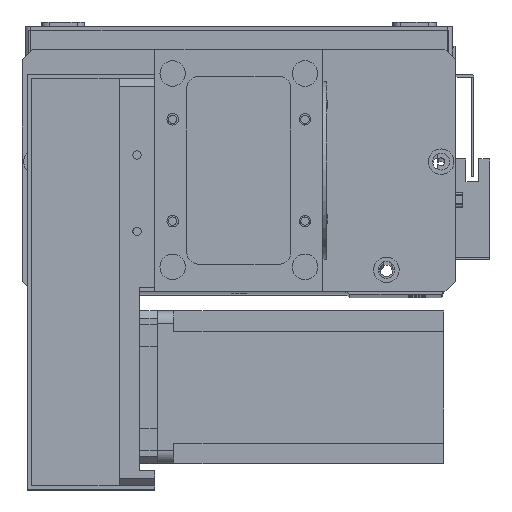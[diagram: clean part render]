
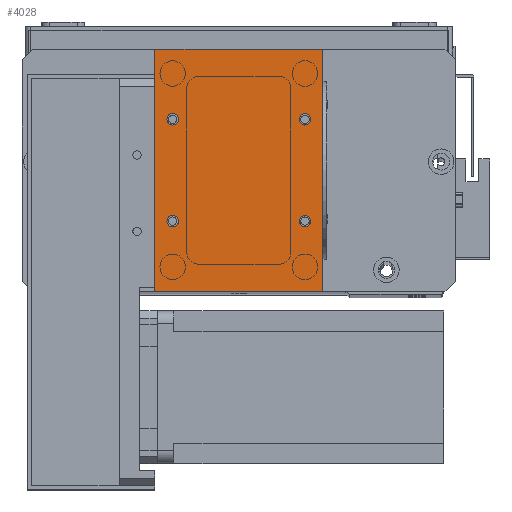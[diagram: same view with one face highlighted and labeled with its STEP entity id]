
A CAD part, top view. The second image highlights one B-rep face of the part: STEP entity #4028.
In plain terms, the highlighted planar face has unit normal (0, 0, 1).
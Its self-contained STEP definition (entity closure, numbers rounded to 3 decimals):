
#66 = CARTESIAN_POINT ( 'NONE',  ( 9.25, 27.5, 2. ) ) ;
#109 = DIRECTION ( 'NONE',  ( 0., -1., 0. ) ) ;
#522 = ORIENTED_EDGE ( 'NONE', *, *, #30972, .F. ) ;
#525 = CARTESIAN_POINT ( 'NONE',  ( 66., 0., 2. ) ) ;
#570 = VERTEX_POINT ( 'NONE', #4029 ) ;
#637 = VERTEX_POINT ( 'NONE', #14128 ) ;
#964 = CARTESIAN_POINT ( 'NONE',  ( 0., 0., 2. ) ) ;
#1369 = VERTEX_POINT ( 'NONE', #5183 ) ;
#1561 = CIRCLE ( 'NONE', #4852, 2.25 ) ;
#2448 = CARTESIAN_POINT ( 'NONE',  ( 7., 67.5, 2. ) ) ;
#2618 = ORIENTED_EDGE ( 'NONE', *, *, #27591, .F. ) ;
#3159 = ORIENTED_EDGE ( 'NONE', *, *, #25339, .T. ) ;
#3218 = FACE_BOUND ( 'NONE', #16090, .T. ) ;
#3824 = ORIENTED_EDGE ( 'NONE', *, *, #10182, .F. ) ;
#4028 = ADVANCED_FACE ( 'NONE', ( #16968, #22657, #9684, #3218, #28338 ), #6432, .F. ) ;
#4029 = CARTESIAN_POINT ( 'NONE',  ( 66., 95., 2. ) ) ;
#4418 = CIRCLE ( 'NONE', #20036, 2.25 ) ;
#4852 = AXIS2_PLACEMENT_3D ( 'NONE', #13725, #14544, #31527 ) ;
#4877 = DIRECTION ( 'NONE',  ( 1., 0., 0. ) ) ;
#5023 = VERTEX_POINT ( 'NONE', #10564 ) ;
#5183 = CARTESIAN_POINT ( 'NONE',  ( 61.25, 27.5, 2. ) ) ;
#5268 = EDGE_CURVE ( 'NONE', #29697, #637, #10010, .T. ) ;
#5712 = DIRECTION ( 'NONE',  ( 0., 0., 1. ) ) ;
#6432 = PLANE ( 'NONE',  #10910 ) ;
#6631 = CARTESIAN_POINT ( 'NONE',  ( 7., 67.5, 2. ) ) ;
#6652 = EDGE_CURVE ( 'NONE', #5023, #1369, #1561, .T. ) ;
#6762 = VERTEX_POINT ( 'NONE', #29828 ) ;
#7927 = CIRCLE ( 'NONE', #20461, 2.25 ) ;
#8896 = DIRECTION ( 'NONE',  ( 0., 0., 1. ) ) ;
#9057 = DIRECTION ( 'NONE',  ( 1., 0., 0. ) ) ;
#9684 = FACE_BOUND ( 'NONE', #19916, .T. ) ;
#9758 = CARTESIAN_POINT ( 'NONE',  ( 0., 0., 2. ) ) ;
#10010 = LINE ( 'NONE', #9758, #28651 ) ;
#10182 = EDGE_CURVE ( 'NONE', #28941, #25721, #7927, .T. ) ;
#10564 = CARTESIAN_POINT ( 'NONE',  ( 56.75, 27.5, 2. ) ) ;
#10598 = EDGE_CURVE ( 'NONE', #17504, #6762, #19010, .T. ) ;
#10689 = CARTESIAN_POINT ( 'NONE',  ( 0., 95., 2. ) ) ;
#10751 = VERTEX_POINT ( 'NONE', #23375 ) ;
#10910 = AXIS2_PLACEMENT_3D ( 'NONE', #28352, #13800, #30796 ) ;
#11043 = AXIS2_PLACEMENT_3D ( 'NONE', #20343, #5712, #22760 ) ;
#11084 = VERTEX_POINT ( 'NONE', #525 ) ;
#11468 = DIRECTION ( 'NONE',  ( 0., 0., 1. ) ) ;
#11539 = DIRECTION ( 'NONE',  ( 0., 0., 1. ) ) ;
#12057 = VECTOR ( 'NONE', #31202, 1000. ) ;
#12180 = LINE ( 'NONE', #27216, #30826 ) ;
#12429 = CARTESIAN_POINT ( 'NONE',  ( 4.75, 27.5, 2. ) ) ;
#12637 = EDGE_LOOP ( 'NONE', ( #21343, #25572 ) ) ;
#13505 = CARTESIAN_POINT ( 'NONE',  ( 7., 27.5, 2. ) ) ;
#13725 = CARTESIAN_POINT ( 'NONE',  ( 59., 27.5, 2. ) ) ;
#13800 = DIRECTION ( 'NONE',  ( 0., 0., -1. ) ) ;
#14128 = CARTESIAN_POINT ( 'NONE',  ( 0., 0., 2. ) ) ;
#14544 = DIRECTION ( 'NONE',  ( 0., 0., 1. ) ) ;
#15986 = DIRECTION ( 'NONE',  ( 1., 0., 0. ) ) ;
#16090 = EDGE_LOOP ( 'NONE', ( #22843, #3824 ) ) ;
#16585 = EDGE_CURVE ( 'NONE', #570, #29697, #12180, .T. ) ;
#16668 = CARTESIAN_POINT ( 'NONE',  ( 66., 0., 2. ) ) ;
#16968 = FACE_BOUND ( 'NONE', #12637, .T. ) ;
#17211 = EDGE_LOOP ( 'NONE', ( #27090, #522 ) ) ;
#17504 = VERTEX_POINT ( 'NONE', #26098 ) ;
#19010 = CIRCLE ( 'NONE', #11043, 2.25 ) ;
#19215 = EDGE_CURVE ( 'NONE', #29884, #10751, #27308, .T. ) ;
#19270 = EDGE_CURVE ( 'NONE', #11084, #570, #25029, .T. ) ;
#19335 = AXIS2_PLACEMENT_3D ( 'NONE', #23492, #8896, #25929 ) ;
#19508 = DIRECTION ( 'NONE',  ( 0., 0., 1. ) ) ;
#19916 = EDGE_LOOP ( 'NONE', ( #2618, #26855 ) ) ;
#20036 = AXIS2_PLACEMENT_3D ( 'NONE', #26108, #11539, #28559 ) ;
#20343 = CARTESIAN_POINT ( 'NONE',  ( 59., 67.5, 2. ) ) ;
#20366 = EDGE_CURVE ( 'NONE', #25721, #28941, #20415, .T. ) ;
#20415 = CIRCLE ( 'NONE', #19335, 2.25 ) ;
#20461 = AXIS2_PLACEMENT_3D ( 'NONE', #13505, #30517, #15986 ) ;
#20696 = AXIS2_PLACEMENT_3D ( 'NONE', #2448, #19508, #4877 ) ;
#20810 = VECTOR ( 'NONE', #30069, 1000. ) ;
#21122 = CARTESIAN_POINT ( 'NONE',  ( 4.75, 67.5, 2. ) ) ;
#21296 = AXIS2_PLACEMENT_3D ( 'NONE', #6631, #23657, #9057 ) ;
#21343 = ORIENTED_EDGE ( 'NONE', *, *, #28874, .F. ) ;
#22657 = FACE_BOUND ( 'NONE', #17211, .T. ) ;
#22760 = DIRECTION ( 'NONE',  ( 1., 0., 0. ) ) ;
#22843 = ORIENTED_EDGE ( 'NONE', *, *, #20366, .F. ) ;
#23375 = CARTESIAN_POINT ( 'NONE',  ( 9.25, 67.5, 2. ) ) ;
#23384 = ORIENTED_EDGE ( 'NONE', *, *, #16585, .T. ) ;
#23492 = CARTESIAN_POINT ( 'NONE',  ( 7., 27.5, 2. ) ) ;
#23657 = DIRECTION ( 'NONE',  ( 0., 0., 1. ) ) ;
#24405 = EDGE_LOOP ( 'NONE', ( #26966, #3159, #30938, #23384 ) ) ;
#25029 = LINE ( 'NONE', #16668, #12057 ) ;
#25321 = AXIS2_PLACEMENT_3D ( 'NONE', #26047, #11468, #28497 ) ;
#25339 = EDGE_CURVE ( 'NONE', #637, #11084, #28031, .T. ) ;
#25572 = ORIENTED_EDGE ( 'NONE', *, *, #19215, .F. ) ;
#25635 = CIRCLE ( 'NONE', #25321, 2.25 ) ;
#25721 = VERTEX_POINT ( 'NONE', #66 ) ;
#25929 = DIRECTION ( 'NONE',  ( 1., 0., 0. ) ) ;
#26047 = CARTESIAN_POINT ( 'NONE',  ( 59., 27.5, 2. ) ) ;
#26098 = CARTESIAN_POINT ( 'NONE',  ( 61.25, 67.5, 2. ) ) ;
#26108 = CARTESIAN_POINT ( 'NONE',  ( 59., 67.5, 2. ) ) ;
#26855 = ORIENTED_EDGE ( 'NONE', *, *, #6652, .F. ) ;
#26966 = ORIENTED_EDGE ( 'NONE', *, *, #5268, .T. ) ;
#26999 = CIRCLE ( 'NONE', #20696, 2.25 ) ;
#27090 = ORIENTED_EDGE ( 'NONE', *, *, #10598, .F. ) ;
#27216 = CARTESIAN_POINT ( 'NONE',  ( 0., 95., 2. ) ) ;
#27308 = CIRCLE ( 'NONE', #21296, 2.25 ) ;
#27591 = EDGE_CURVE ( 'NONE', #1369, #5023, #25635, .T. ) ;
#28031 = LINE ( 'NONE', #964, #20810 ) ;
#28338 = FACE_OUTER_BOUND ( 'NONE', #24405, .T. ) ;
#28352 = CARTESIAN_POINT ( 'NONE',  ( 0., 0., 2. ) ) ;
#28497 = DIRECTION ( 'NONE',  ( 1., 0., 0. ) ) ;
#28559 = DIRECTION ( 'NONE',  ( 1., 0., 0. ) ) ;
#28651 = VECTOR ( 'NONE', #109, 1000. ) ;
#28874 = EDGE_CURVE ( 'NONE', #10751, #29884, #26999, .T. ) ;
#28941 = VERTEX_POINT ( 'NONE', #12429 ) ;
#29655 = DIRECTION ( 'NONE',  ( -1., 0., 0. ) ) ;
#29697 = VERTEX_POINT ( 'NONE', #10689 ) ;
#29828 = CARTESIAN_POINT ( 'NONE',  ( 56.75, 67.5, 2. ) ) ;
#29884 = VERTEX_POINT ( 'NONE', #21122 ) ;
#30069 = DIRECTION ( 'NONE',  ( 1., 0., 0. ) ) ;
#30517 = DIRECTION ( 'NONE',  ( 0., 0., 1. ) ) ;
#30796 = DIRECTION ( 'NONE',  ( -1., 0., 0. ) ) ;
#30826 = VECTOR ( 'NONE', #29655, 1000. ) ;
#30938 = ORIENTED_EDGE ( 'NONE', *, *, #19270, .T. ) ;
#30972 = EDGE_CURVE ( 'NONE', #6762, #17504, #4418, .T. ) ;
#31202 = DIRECTION ( 'NONE',  ( 0., 1., 0. ) ) ;
#31527 = DIRECTION ( 'NONE',  ( 1., 0., 0. ) ) ;
